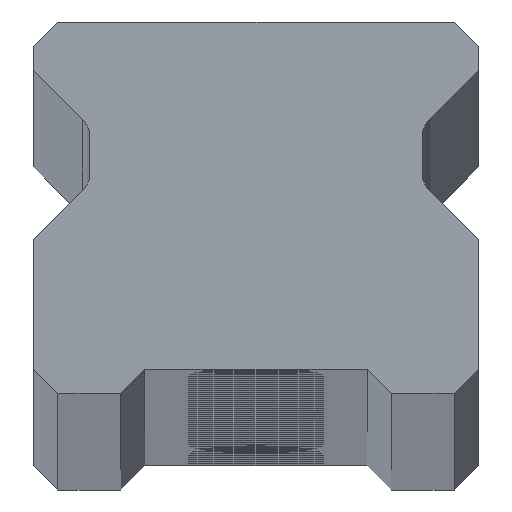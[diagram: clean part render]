
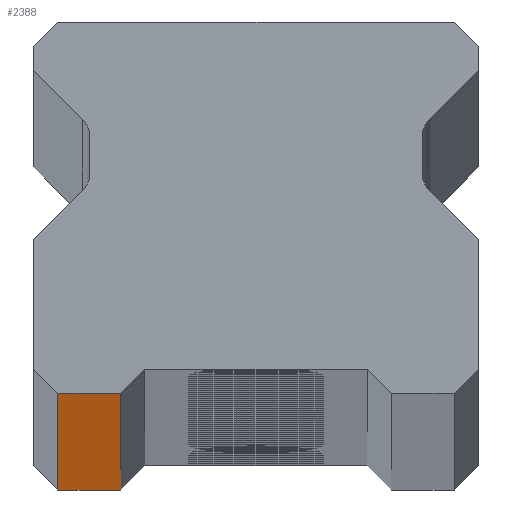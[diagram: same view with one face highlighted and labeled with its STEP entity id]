
A CAD part, top view. The second image highlights one B-rep face of the part: STEP entity #2388.
In plain terms, the highlighted planar face has unit normal (0, -1, 0).
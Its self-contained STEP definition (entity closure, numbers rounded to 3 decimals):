
#60 = EDGE_CURVE ( 'NONE', #4632, #1215, #559, .T. ) ;
#261 = VECTOR ( 'NONE', #7134, 1000. ) ;
#559 = LINE ( 'NONE', #1045, #261 ) ;
#934 = VECTOR ( 'NONE', #2389, 1000. ) ;
#1045 = CARTESIAN_POINT ( 'NONE',  ( 11.5, 0., -1430. ) ) ;
#1191 = VERTEX_POINT ( 'NONE', #6900 ) ;
#1215 = VERTEX_POINT ( 'NONE', #7561 ) ;
#2042 = CARTESIAN_POINT ( 'NONE',  ( -7., 0., -1430. ) ) ;
#2388 = ADVANCED_FACE ( 'NONE', ( #4633 ), #7032, .F. ) ;
#2389 = DIRECTION ( 'NONE',  ( 1., 0., 0. ) ) ;
#2404 = CARTESIAN_POINT ( 'NONE',  ( -10.25, 0., 1430. ) ) ;
#3447 = ORIENTED_EDGE ( 'NONE', *, *, #6778, .T. ) ;
#4070 = ORIENTED_EDGE ( 'NONE', *, *, #60, .T. ) ;
#4324 = DIRECTION ( 'NONE',  ( 0., 0., -1. ) ) ;
#4545 = DIRECTION ( 'NONE',  ( -1., 0., 0. ) ) ;
#4632 = VERTEX_POINT ( 'NONE', #7143 ) ;
#4633 = FACE_OUTER_BOUND ( 'NONE', #7086, .T. ) ;
#5156 = CARTESIAN_POINT ( 'NONE',  ( -7., 0., 1430. ) ) ;
#5158 = ORIENTED_EDGE ( 'NONE', *, *, #6981, .T. ) ;
#5290 = ORIENTED_EDGE ( 'NONE', *, *, #5385, .F. ) ;
#5385 = EDGE_CURVE ( 'NONE', #1191, #5561, #7846, .T. ) ;
#5398 = VECTOR ( 'NONE', #4324, 1000. ) ;
#5561 = VERTEX_POINT ( 'NONE', #5156 ) ;
#5884 = DIRECTION ( 'NONE',  ( 0., 0., 1. ) ) ;
#6210 = VECTOR ( 'NONE', #5884, 1000. ) ;
#6778 = EDGE_CURVE ( 'NONE', #1191, #4632, #7414, .T. ) ;
#6900 = CARTESIAN_POINT ( 'NONE',  ( -10.25, 0., 1430. ) ) ;
#6981 = EDGE_CURVE ( 'NONE', #1215, #5561, #7091, .T. ) ;
#7032 = PLANE ( 'NONE',  #7113 ) ;
#7084 = DIRECTION ( 'NONE',  ( 0., 1., 0. ) ) ;
#7086 = EDGE_LOOP ( 'NONE', ( #4070, #5158, #5290, #3447 ) ) ;
#7091 = LINE ( 'NONE', #2042, #6210 ) ;
#7113 = AXIS2_PLACEMENT_3D ( 'NONE', #7150, #7084, #4545 ) ;
#7134 = DIRECTION ( 'NONE',  ( 1., 0., 0. ) ) ;
#7143 = CARTESIAN_POINT ( 'NONE',  ( -10.25, 0., -1430. ) ) ;
#7150 = CARTESIAN_POINT ( 'NONE',  ( 11.5, 0., 1430. ) ) ;
#7414 = LINE ( 'NONE', #2404, #5398 ) ;
#7421 = CARTESIAN_POINT ( 'NONE',  ( 11.5, 0., 1430. ) ) ;
#7561 = CARTESIAN_POINT ( 'NONE',  ( -7., 0., -1430. ) ) ;
#7846 = LINE ( 'NONE', #7421, #934 ) ;
